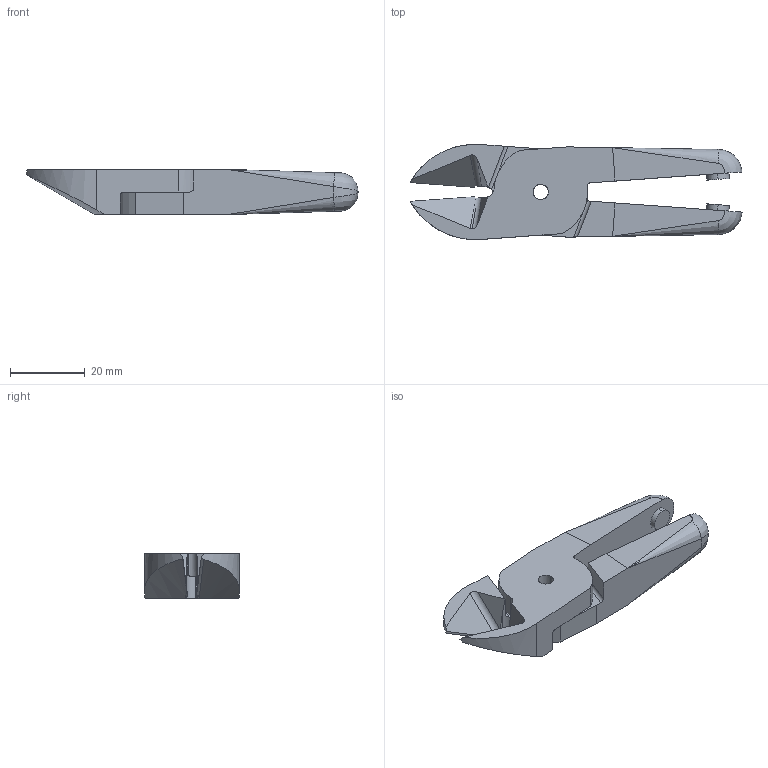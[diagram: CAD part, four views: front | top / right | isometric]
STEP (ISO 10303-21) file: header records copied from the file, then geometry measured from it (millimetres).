
FILE_DESCRIPTION (( 'STEP AP214' ), '1' );
FILE_NAME ('N10LAS.STEP', '2019-11-29T01:56:09', ( '微软用户' ), ( '微软中国' ), 'SwSTEP 2.0', 'SolidWorks 2016', '' );
FILE_SCHEMA (( 'AUTOMOTIVE_DESIGN' ));
Length unit declared in the file: millimetre
Products named in the file (3): N10LAS-02; N10LAS-01; N10LAS
Assembly tree (2 placements, depth 2):
  N10LAS
    N10LAS-01
    N10LAS-02
Bounding box: 88.67 x 25.36 x 12 mm (x, y, z)
Volume: 15839 mm3; surface area: 7784.2 mm2
Topology: 2 solids, 2 shells, 76 faces, 216 edges, 142 vertices
Faces by surface type: plane 39, cylinder 29, bspline 8
Entity records: 4110 total; most frequent: CARTESIAN_POINT 2230, ORIENTED_EDGE 424, DIRECTION 293, EDGE_CURVE 212, VERTEX_POINT 142, VECTOR 101, LINE 101, AXIS2_PLACEMENT_3D 96
